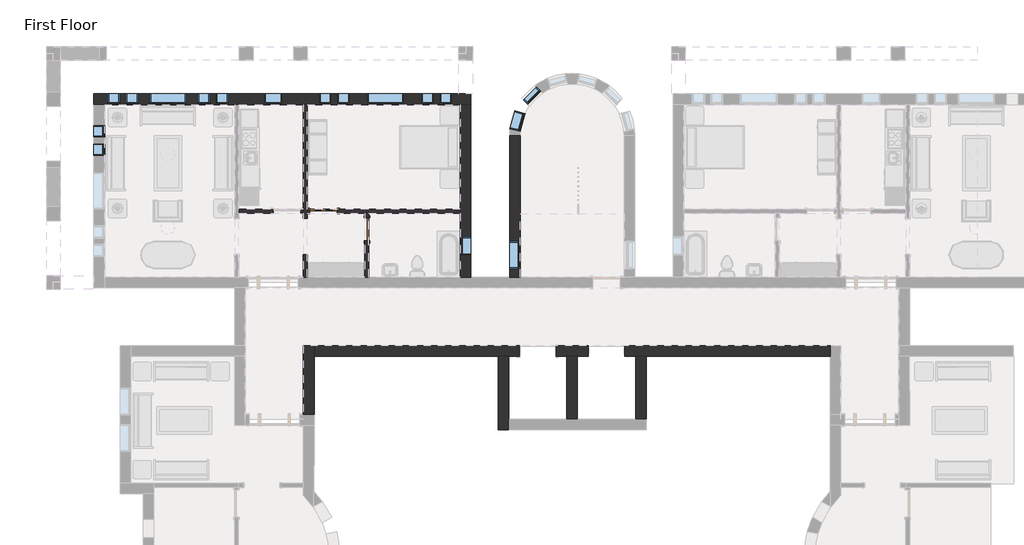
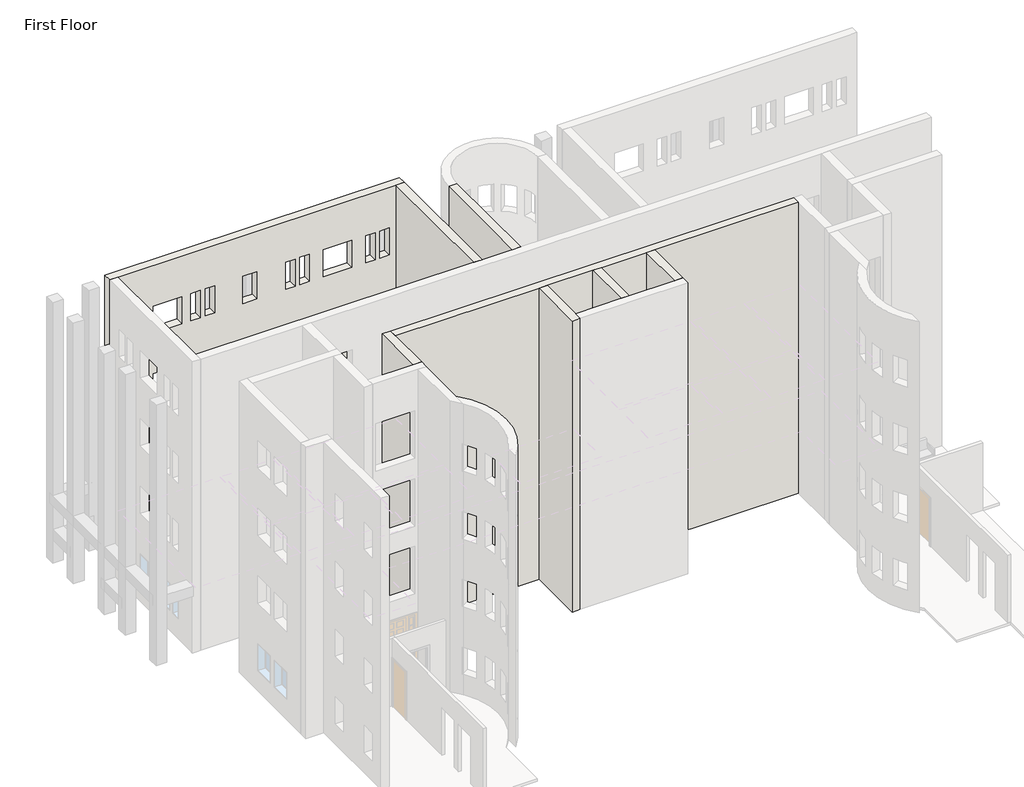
# One storey, part 13 of 21: 17 windows, 12 walls, 2 doors.
"""IFC4 building model written with IfcOpenShell, lengths in millimetres."""

from ifc_helpers import new_model, si_unit, frame, origin, origin_with_axes, place, context, project, spatial, polyline, outline, extrude, faceted_brep, transform, mapped, element, save
from components import door_829da954, door_e36758a9, window_da97879f, window_d61ef850, window_60baf983, window_ed80354a, window_80bd9af0, window_15c49d37, window_d89bf842

model = new_model("IFC4")

# Units and contexts
model_context = context("Model", 3, world=origin())
ifc_project = project(units=[si_unit("LENGTHUNIT", "METRE", prefix="MILLI")], contexts=[model_context])

# Site, building, storey
site = spatial("IfcSite", under=ifc_project)
building = spatial("IfcBuilding", under=site)
storey = spatial("IfcBuildingStorey", under=building, Name="First Floor", Elevation=0.0)

# Doors
placement = place(None, origin())
door_shape = door_829da954(model_context)
element("IfcDoor", 1, ObjectType="Single-Decorative 2 : 36\" x 84\"", at=placement, inside=storey, context=model_context, shape_type="MappedRepresentation", body=[
    mapped(door_shape, transform((-23201.2839563, 6723.5441867, 0.0), x_axis=(-1.0, 0.0, 0.0), y_axis=(0.0, -1.0, 0.0), z_axis=(0.0, 0.0, 1.0))),
])
door_2_shape = door_e36758a9(model_context)
element("IfcDoor", 2, ObjectType="Single-Flush : 30\" x 84\"", at=placement, inside=storey, context=model_context, shape_type="MappedRepresentation", body=[
    mapped(door_2_shape, transform((-21764.5964563, 6113.9441867, 0.0), x_axis=(0.0, 1.0, 0.0), y_axis=(-1.0, 0.0, 0.0), z_axis=(0.0, 0.0, 1.0))),
])

# Walls
element("IfcWall", 3, ObjectType="Exterior - Brick on Mtl. Stud", at=placement, inside=storey, context=model_context, shape_type="Brep", body=[
    faceted_brep([(-17397.3839563, 1888.0191867, 0.0), (-17397.3839563, -550.3808133, 0.0), (-17397.3839563, -550.3808133, 13106.4), (-17397.3839563, 1888.0191867, 13106.4), (-17044.9589563, 1888.0191867, 0.0), (-17044.9589563, 1888.0191867, 13106.4), (-17044.9589563, -197.9558133, 13106.4), (-17044.9589563, -550.3808133, 13106.4), (-17044.9589563, -550.3808133, 0.0), (-17044.9589563, -197.9558133, 0.0)], [[[0, 1, 2, 3]], [[4, 5, 6, 7, 8, 9]], [[1, 0, 4, 9, 8]], [[3, 2, 7, 6, 5]], [[2, 1, 8, 7]], [[0, 3, 5, 4]]]),
])
element("IfcWall", 4, ObjectType="Exterior - Brick on Mtl. Stud", at=placement, inside=storey, context=model_context, shape_type="SweptSolid", body=[
    extrude(outline(polyline([(-12472.9589563, 1888.0191867), (-12472.9589563, -197.9558133), (-12825.3839563, -197.9558133), (-12825.3839563, 1888.0191867), (-12472.9589563, 1888.0191867)])), origin_with_axes(), (0.0, 0.0, 1.0), 13106.4),
])
element("IfcWall", 5, ObjectType="Exterior - Brick on Mtl. Stud", at=placement, inside=storey, context=model_context, shape_type="Brep", body=[
    faceted_brep([(-23521.9589563, 2240.4441867, 0.0), (-16687.7714563, 2240.4441867, 0.0), (-16687.7714563, 1888.0191867, 0.0), (-17044.9589563, 1888.0191867, 0.0), (-17397.3839563, 1888.0191867, 0.0), (-23521.9589563, 1888.0191867, 0.0), (-15468.5714563, 2240.4441867, 0.0), (-14401.7714563, 2240.4441867, 0.0), (-14401.7714563, 1888.0191867, 0.0), (-14758.9589563, 1888.0191867, 0.0), (-15111.3839563, 1888.0191867, 0.0), (-15468.5714563, 1888.0191867, 0.0), (-13182.5714563, 2240.4441867, 0.0), (-6348.3839563, 2240.4441867, 0.0), (-6348.3839563, 1888.0191867, 0.0), (-12472.9589563, 1888.0191867, 0.0), (-12825.3839563, 1888.0191867, 0.0), (-13182.5714563, 1888.0191867, 0.0), (-23521.9589563, 1888.0191867, 13106.4), (-17397.3839563, 1888.0191867, 13106.4), (-17044.9589563, 1888.0191867, 13106.4), (-15111.3839563, 1888.0191867, 13106.4), (-14758.9589563, 1888.0191867, 13106.4), (-12825.3839563, 1888.0191867, 13106.4), (-12472.9589563, 1888.0191867, 13106.4), (-6348.3839563, 1888.0191867, 13106.4), (-6348.3839563, 2240.4441867, 13106.4), (-23521.9589563, 2240.4441867, 13106.4), (-14401.7714563, 1888.0191867, 2133.6), (-13182.5714563, 1888.0191867, 2133.6), (-16687.7714563, 1888.0191867, 2133.6), (-15468.5714563, 1888.0191867, 2133.6), (-13182.5714563, 1888.0191867, 8229.6), (-13182.5714563, 1888.0191867, 6096.0), (-14401.7714563, 1888.0191867, 6096.0), (-14401.7714563, 1888.0191867, 8229.6), (-15468.5714563, 1888.0191867, 8229.6), (-15468.5714563, 1888.0191867, 6096.0), (-16687.7714563, 1888.0191867, 6096.0), (-16687.7714563, 1888.0191867, 8229.6), (-13182.5714563, 1888.0191867, 5181.6), (-13182.5714563, 1888.0191867, 3048.0), (-14401.7714563, 1888.0191867, 3048.0), (-14401.7714563, 1888.0191867, 5181.6), (-15468.5714563, 1888.0191867, 5181.6), (-15468.5714563, 1888.0191867, 3048.0), (-16687.7714563, 1888.0191867, 3048.0), (-16687.7714563, 1888.0191867, 5181.6), (-13182.5714563, 1888.0191867, 11277.6), (-13182.5714563, 1888.0191867, 9144.0), (-14401.7714563, 1888.0191867, 9144.0), (-14401.7714563, 1888.0191867, 11277.6), (-15468.5714563, 1888.0191867, 11277.6), (-15468.5714563, 1888.0191867, 9144.0), (-16687.7714563, 1888.0191867, 9144.0), (-16687.7714563, 1888.0191867, 11277.6), (-14401.7714563, 2240.4441867, 2133.6), (-15468.5714563, 2240.4441867, 2133.6), (-16687.7714563, 2240.4441867, 2133.6), (-13182.5714563, 2240.4441867, 2133.6), (-13182.5714563, 2240.4441867, 8229.6), (-14401.7714563, 2240.4441867, 8229.6), (-14401.7714563, 2240.4441867, 6096.0), (-13182.5714563, 2240.4441867, 6096.0), (-15468.5714563, 2240.4441867, 8229.6), (-16687.7714563, 2240.4441867, 8229.6), (-16687.7714563, 2240.4441867, 6096.0), (-15468.5714563, 2240.4441867, 6096.0), (-13182.5714563, 2240.4441867, 5181.6), (-14401.7714563, 2240.4441867, 5181.6), (-14401.7714563, 2240.4441867, 3048.0), (-13182.5714563, 2240.4441867, 3048.0), (-15468.5714563, 2240.4441867, 5181.6), (-16687.7714563, 2240.4441867, 5181.6), (-16687.7714563, 2240.4441867, 3048.0), (-15468.5714563, 2240.4441867, 3048.0), (-13182.5714563, 2240.4441867, 11277.6), (-14401.7714563, 2240.4441867, 11277.6), (-14401.7714563, 2240.4441867, 9144.0), (-13182.5714563, 2240.4441867, 9144.0), (-15468.5714563, 2240.4441867, 11277.6), (-16687.7714563, 2240.4441867, 11277.6), (-16687.7714563, 2240.4441867, 9144.0), (-15468.5714563, 2240.4441867, 9144.0)], [[[0, 1, 2, 3, 4, 5]], [[6, 7, 8, 9, 10, 11]], [[12, 13, 14, 15, 16, 17]], [[18, 19, 20, 21, 22, 23, 24, 25, 26, 27]], [[11, 10, 9, 8, 28, 29, 17, 16, 15, 14, 25, 24, 23, 22, 21, 20, 19, 18, 5, 4, 3, 2, 30, 31], [32, 33, 34, 35], [36, 37, 38, 39], [40, 41, 42, 43], [44, 45, 46, 47], [48, 49, 50, 51], [52, 53, 54, 55]], [[56, 7, 6, 57, 58, 1, 0, 27, 26, 13, 12, 59], [60, 61, 62, 63], [64, 65, 66, 67], [68, 69, 70, 71], [72, 73, 74, 75], [76, 77, 78, 79], [80, 81, 82, 83]], [[25, 14, 13, 26]], [[5, 18, 27, 0]], [[11, 31, 57, 6]], [[30, 2, 1, 58]], [[31, 30, 58, 57]], [[17, 29, 59, 12]], [[28, 8, 7, 56]], [[29, 28, 56, 59]], [[33, 32, 60, 63]], [[34, 33, 63, 62]], [[35, 34, 62, 61]], [[32, 35, 61, 60]], [[37, 36, 64, 67]], [[38, 37, 67, 66]], [[39, 38, 66, 65]], [[36, 39, 65, 64]], [[41, 40, 68, 71]], [[42, 41, 71, 70]], [[43, 42, 70, 69]], [[40, 43, 69, 68]], [[45, 44, 72, 75]], [[46, 45, 75, 74]], [[47, 46, 74, 73]], [[44, 47, 73, 72]], [[49, 48, 76, 79]], [[50, 49, 79, 78]], [[51, 50, 78, 77]], [[48, 51, 77, 76]], [[53, 52, 80, 83]], [[54, 53, 83, 82]], [[55, 54, 82, 81]], [[52, 55, 81, 80]]]),
])
element("IfcWall", 6, ObjectType="Exterior - Brick on Mtl. Stud", at=placement, inside=storey, context=model_context, shape_type="SweptSolid", body=[
    extrude(outline(polyline([(4526.4441867, 0.0), (4526.4441867, 13106.4), (9227.0316867, 13106.4), (9227.0316867, 0.0), (4526.4441867, 0.0)]), holes=[polyline([(4807.4316867, 8229.6), (4807.4316867, 7010.4), (5721.8316867, 7010.4), (5721.8316867, 8229.6), (4807.4316867, 8229.6)]), polyline([(4807.4316867, 5181.6), (4807.4316867, 3962.4), (5721.8316867, 3962.4), (5721.8316867, 5181.6), (4807.4316867, 5181.6)]), polyline([(4807.4316867, 11277.6), (4807.4316867, 10058.4), (5721.8316867, 10058.4), (5721.8316867, 11277.6), (4807.4316867, 11277.6)]), polyline([(4807.4316867, 2133.6), (4807.4316867, 914.4), (5721.8316867, 914.4), (5721.8316867, 2133.6), (4807.4316867, 2133.6)])]), frame((-17016.3839563, 0.0, 0.0), z_axis=(1.0, 0.0, 0.0), x_axis=(0.0, 1.0, 0.0)), (0.0, 0.0, 1.0), 352.425),
])
element("IfcWall", 7, ObjectType="Exterior - Brick on Mtl. Stud", at=placement, inside=storey, context=model_context, shape_type="SweptSolid", body=[
    extrude(outline(polyline([(-14758.9589563, 1888.0191867), (-14758.9589563, -197.9558133), (-15111.3839563, -197.9558133), (-15111.3839563, 1888.0191867), (-14758.9589563, 1888.0191867)])), origin_with_axes(), (0.0, 0.0, 1.0), 13106.4),
])
element("IfcWall", 8, ObjectType="Exterior - Brick on Mtl. Stud", at=placement, inside=storey, context=model_context, shape_type="Brep", body=[
    faceted_brep([(-23874.3839563, 2240.4441867, 0.0), (-23874.3839563, -48.0814907, 0.0), (-23874.3839563, -48.0814907, 13106.4), (-23874.3839563, 2240.4441867, 13106.4), (-23521.9589563, 2240.4441867, 0.0), (-23521.9589563, 2240.4441867, 13106.4), (-23521.9589563, 1888.0191867, 13106.4), (-23521.9589563, -48.3489373, 13106.4), (-23521.9589563, -48.3489373, 0.0), (-23521.9589563, 1888.0191867, 0.0)], [[[0, 1, 2, 3]], [[4, 5, 6, 7, 8, 9]], [[1, 0, 4, 9, 8]], [[3, 2, 7, 6, 5]], [[0, 3, 5, 4]], [[2, 1, 8, 7]]]),
])
element("IfcWall", 9, ObjectType="Exterior - Brick on Mtl. Stud", at=placement, inside=storey, context=model_context, shape_type="Brep", body=[
    faceted_brep([(-18300.6714563, 10622.4441867, 13106.4), (-30845.0964563, 10622.4441867, 13106.4), (-30845.0964563, 10270.0191867, 13106.4), (-30492.6714563, 10270.0191867, 13106.4), (-18653.0964563, 10270.0191867, 13106.4), (-18300.6714563, 10270.0191867, 13106.4), (-18300.6714563, 10622.4441867, 0.0), (-18487.9964563, 10622.4441867, 0.0), (-30657.7714563, 10622.4441867, 0.0), (-30845.0964563, 10622.4441867, 0.0), (-29779.8839563, 10622.4441867, 8229.6), (-29779.8839563, 10622.4441867, 7010.4), (-29373.4839563, 10622.4441867, 7010.4), (-29373.4839563, 10622.4441867, 8229.6), (-30389.4839563, 10622.4441867, 8229.6), (-30389.4839563, 10622.4441867, 7010.4), (-29983.0839563, 10622.4441867, 7010.4), (-29983.0839563, 10622.4441867, 8229.6), (-26985.8839563, 10622.4441867, 8229.6), (-27392.2839563, 10622.4441867, 8229.6), (-27392.2839563, 10622.4441867, 7010.4), (-26985.8839563, 10622.4441867, 7010.4), (-26376.2839563, 10622.4441867, 8229.6), (-26782.6839563, 10622.4441867, 8229.6), (-26782.6839563, 10622.4441867, 7010.4), (-26376.2839563, 10622.4441867, 7010.4), (-22744.0839563, 10622.4441867, 8229.6), (-22744.0839563, 10622.4441867, 7010.4), (-22337.6839563, 10622.4441867, 7010.4), (-22337.6839563, 10622.4441867, 8229.6), (-23353.6839563, 10622.4441867, 8229.6), (-23353.6839563, 10622.4441867, 7010.4), (-22947.2839563, 10622.4441867, 7010.4), (-22947.2839563, 10622.4441867, 8229.6), (-19543.6839563, 10622.4441867, 8229.6), (-19950.0839563, 10622.4441867, 8229.6), (-19950.0839563, 10622.4441867, 7010.4), (-19543.6839563, 10622.4441867, 7010.4), (-18934.0839563, 10622.4441867, 8229.6), (-19340.4839563, 10622.4441867, 8229.6), (-19340.4839563, 10622.4441867, 7010.4), (-18934.0839563, 10622.4441867, 7010.4), (-27773.2839563, 10622.4441867, 8229.6), (-28992.4839563, 10622.4441867, 8229.6), (-28992.4839563, 10622.4441867, 7010.4), (-27773.2839563, 10622.4441867, 7010.4), (-20534.2839563, 10622.4441867, 8229.6), (-21753.4839563, 10622.4441867, 8229.6), (-21753.4839563, 10622.4441867, 7010.4), (-20534.2839563, 10622.4441867, 7010.4), (-24572.8839563, 10622.4441867, 8229.6), (-25182.4839563, 10622.4441867, 8229.6), (-25182.4839563, 10622.4441867, 7010.4), (-24572.8839563, 10622.4441867, 7010.4), (-29779.8839563, 10622.4441867, 5181.6), (-29779.8839563, 10622.4441867, 3962.4), (-29373.4839563, 10622.4441867, 3962.4), (-29373.4839563, 10622.4441867, 5181.6), (-30389.4839563, 10622.4441867, 5181.6), (-30389.4839563, 10622.4441867, 3962.4), (-29983.0839563, 10622.4441867, 3962.4), (-29983.0839563, 10622.4441867, 5181.6), (-26985.8839563, 10622.4441867, 5181.6), (-27392.2839563, 10622.4441867, 5181.6), (-27392.2839563, 10622.4441867, 3962.4), (-26985.8839563, 10622.4441867, 3962.4), (-26376.2839563, 10622.4441867, 5181.6), (-26782.6839563, 10622.4441867, 5181.6), (-26782.6839563, 10622.4441867, 3962.4), (-26376.2839563, 10622.4441867, 3962.4), (-22744.0839563, 10622.4441867, 5181.6), (-22744.0839563, 10622.4441867, 3962.4), (-22337.6839563, 10622.4441867, 3962.4), (-22337.6839563, 10622.4441867, 5181.6), (-23353.6839563, 10622.4441867, 5181.6), (-23353.6839563, 10622.4441867, 3962.4), (-22947.2839563, 10622.4441867, 3962.4), (-22947.2839563, 10622.4441867, 5181.6), (-19543.6839563, 10622.4441867, 5181.6), (-19950.0839563, 10622.4441867, 5181.6), (-19950.0839563, 10622.4441867, 3962.4), (-19543.6839563, 10622.4441867, 3962.4), (-18934.0839563, 10622.4441867, 5181.6), (-19340.4839563, 10622.4441867, 5181.6), (-19340.4839563, 10622.4441867, 3962.4), (-18934.0839563, 10622.4441867, 3962.4), (-27773.2839563, 10622.4441867, 5181.6), (-28992.4839563, 10622.4441867, 5181.6), (-28992.4839563, 10622.4441867, 3962.4), (-27773.2839563, 10622.4441867, 3962.4), (-20534.2839563, 10622.4441867, 5181.6), (-21753.4839563, 10622.4441867, 5181.6), (-21753.4839563, 10622.4441867, 3962.4), (-20534.2839563, 10622.4441867, 3962.4), (-24572.8839563, 10622.4441867, 5181.6), (-25182.4839563, 10622.4441867, 5181.6), (-25182.4839563, 10622.4441867, 3962.4), (-24572.8839563, 10622.4441867, 3962.4), (-29779.8839563, 10622.4441867, 11277.6), (-29779.8839563, 10622.4441867, 10058.4), (-29373.4839563, 10622.4441867, 10058.4), (-29373.4839563, 10622.4441867, 11277.6), (-30389.4839563, 10622.4441867, 11277.6), (-30389.4839563, 10622.4441867, 10058.4), (-29983.0839563, 10622.4441867, 10058.4), (-29983.0839563, 10622.4441867, 11277.6), (-26985.8839563, 10622.4441867, 11277.6), (-27392.2839563, 10622.4441867, 11277.6), (-27392.2839563, 10622.4441867, 10058.4), (-26985.8839563, 10622.4441867, 10058.4), (-26376.2839563, 10622.4441867, 11277.6), (-26782.6839563, 10622.4441867, 11277.6), (-26782.6839563, 10622.4441867, 10058.4), (-26376.2839563, 10622.4441867, 10058.4), (-22744.0839563, 10622.4441867, 11277.6), (-22744.0839563, 10622.4441867, 10058.4), (-22337.6839563, 10622.4441867, 10058.4), (-22337.6839563, 10622.4441867, 11277.6), (-23353.6839563, 10622.4441867, 11277.6), (-23353.6839563, 10622.4441867, 10058.4), (-22947.2839563, 10622.4441867, 10058.4), (-22947.2839563, 10622.4441867, 11277.6), (-19543.6839563, 10622.4441867, 11277.6), (-19950.0839563, 10622.4441867, 11277.6), (-19950.0839563, 10622.4441867, 10058.4), (-19543.6839563, 10622.4441867, 10058.4), (-18934.0839563, 10622.4441867, 11277.6), (-19340.4839563, 10622.4441867, 11277.6), (-19340.4839563, 10622.4441867, 10058.4), (-18934.0839563, 10622.4441867, 10058.4), (-27773.2839563, 10622.4441867, 11277.6), (-28992.4839563, 10622.4441867, 11277.6), (-28992.4839563, 10622.4441867, 10058.4), (-27773.2839563, 10622.4441867, 10058.4), (-20534.2839563, 10622.4441867, 11277.6), (-21753.4839563, 10622.4441867, 11277.6), (-21753.4839563, 10622.4441867, 10058.4), (-20534.2839563, 10622.4441867, 10058.4), (-24572.8839563, 10622.4441867, 11277.6), (-25182.4839563, 10622.4441867, 11277.6), (-25182.4839563, 10622.4441867, 10058.4), (-24572.8839563, 10622.4441867, 10058.4), (-29779.8839563, 10622.4441867, 2133.6), (-29779.8839563, 10622.4441867, 914.4), (-29373.4839563, 10622.4441867, 914.4), (-29373.4839563, 10622.4441867, 2133.6), (-30389.4839563, 10622.4441867, 2133.6), (-30389.4839563, 10622.4441867, 914.4), (-29983.0839563, 10622.4441867, 914.4), (-29983.0839563, 10622.4441867, 2133.6), (-26985.8839563, 10622.4441867, 2133.6), (-27392.2839563, 10622.4441867, 2133.6), (-27392.2839563, 10622.4441867, 914.4), (-26985.8839563, 10622.4441867, 914.4), (-26376.2839563, 10622.4441867, 2133.6), (-26782.6839563, 10622.4441867, 2133.6), (-26782.6839563, 10622.4441867, 914.4), (-26376.2839563, 10622.4441867, 914.4), (-22744.0839563, 10622.4441867, 2133.6), (-22744.0839563, 10622.4441867, 914.4), (-22337.6839563, 10622.4441867, 914.4), (-22337.6839563, 10622.4441867, 2133.6), (-23353.6839563, 10622.4441867, 2133.6), (-23353.6839563, 10622.4441867, 914.4), (-22947.2839563, 10622.4441867, 914.4), (-22947.2839563, 10622.4441867, 2133.6), (-19543.6839563, 10622.4441867, 2133.6), (-19950.0839563, 10622.4441867, 2133.6), (-19950.0839563, 10622.4441867, 914.4), (-19543.6839563, 10622.4441867, 914.4), (-18934.0839563, 10622.4441867, 2133.6), (-19340.4839563, 10622.4441867, 2133.6), (-19340.4839563, 10622.4441867, 914.4), (-18934.0839563, 10622.4441867, 914.4), (-27773.2839563, 10622.4441867, 2133.6), (-28992.4839563, 10622.4441867, 2133.6), (-28992.4839563, 10622.4441867, 914.4), (-27773.2839563, 10622.4441867, 914.4), (-20534.2839563, 10622.4441867, 2133.6), (-21753.4839563, 10622.4441867, 2133.6), (-21753.4839563, 10622.4441867, 914.4), (-20534.2839563, 10622.4441867, 914.4), (-24572.8839563, 10622.4441867, 2133.6), (-25182.4839563, 10622.4441867, 2133.6), (-25182.4839563, 10622.4441867, 914.4), (-24572.8839563, 10622.4441867, 914.4), (-18300.6714563, 10270.0191867, 0.0), (-30845.0964563, 10270.0191867, 0.0), (-30657.7714563, 10270.0191867, 0.0), (-30492.6714563, 10270.0191867, 0.0), (-26160.3839563, 10270.0191867, 0.0), (-26033.3839563, 10270.0191867, 0.0), (-23874.3839563, 10270.0191867, 0.0), (-23747.3839563, 10270.0191867, 0.0), (-18653.0964563, 10270.0191867, 0.0), (-18487.9964563, 10270.0191867, 0.0), (-29779.8839563, 10270.0191867, 8229.6), (-29373.4839563, 10270.0191867, 8229.6), (-29373.4839563, 10270.0191867, 7010.4), (-29779.8839563, 10270.0191867, 7010.4), (-30389.4839563, 10270.0191867, 8229.6), (-29983.0839563, 10270.0191867, 8229.6), (-29983.0839563, 10270.0191867, 7010.4), (-30389.4839563, 10270.0191867, 7010.4), (-26985.8839563, 10270.0191867, 8229.6), (-26985.8839563, 10270.0191867, 7010.4), (-27392.2839563, 10270.0191867, 7010.4), (-27392.2839563, 10270.0191867, 8229.6), (-26376.2839563, 10270.0191867, 8229.6), (-26376.2839563, 10270.0191867, 7010.4), (-26782.6839563, 10270.0191867, 7010.4), (-26782.6839563, 10270.0191867, 8229.6), (-22744.0839563, 10270.0191867, 8229.6), (-22337.6839563, 10270.0191867, 8229.6), (-22337.6839563, 10270.0191867, 7010.4), (-22744.0839563, 10270.0191867, 7010.4), (-23353.6839563, 10270.0191867, 8229.6), (-22947.2839563, 10270.0191867, 8229.6), (-22947.2839563, 10270.0191867, 7010.4), (-23353.6839563, 10270.0191867, 7010.4), (-19543.6839563, 10270.0191867, 8229.6), (-19543.6839563, 10270.0191867, 7010.4), (-19950.0839563, 10270.0191867, 7010.4), (-19950.0839563, 10270.0191867, 8229.6), (-18934.0839563, 10270.0191867, 8229.6), (-18934.0839563, 10270.0191867, 7010.4), (-19340.4839563, 10270.0191867, 7010.4), (-19340.4839563, 10270.0191867, 8229.6), (-27773.2839563, 10270.0191867, 8229.6), (-27773.2839563, 10270.0191867, 7010.4), (-28992.4839563, 10270.0191867, 7010.4), (-28992.4839563, 10270.0191867, 8229.6), (-20534.2839563, 10270.0191867, 8229.6), (-20534.2839563, 10270.0191867, 7010.4), (-21753.4839563, 10270.0191867, 7010.4), (-21753.4839563, 10270.0191867, 8229.6), (-24572.8839563, 10270.0191867, 8229.6), (-24572.8839563, 10270.0191867, 7010.4), (-25182.4839563, 10270.0191867, 7010.4), (-25182.4839563, 10270.0191867, 8229.6), (-29779.8839563, 10270.0191867, 5181.6), (-29373.4839563, 10270.0191867, 5181.6), (-29373.4839563, 10270.0191867, 3962.4), (-29779.8839563, 10270.0191867, 3962.4), (-30389.4839563, 10270.0191867, 5181.6), (-29983.0839563, 10270.0191867, 5181.6), (-29983.0839563, 10270.0191867, 3962.4), (-30389.4839563, 10270.0191867, 3962.4), (-26985.8839563, 10270.0191867, 5181.6), (-26985.8839563, 10270.0191867, 3962.4), (-27392.2839563, 10270.0191867, 3962.4), (-27392.2839563, 10270.0191867, 5181.6), (-26376.2839563, 10270.0191867, 5181.6), (-26376.2839563, 10270.0191867, 3962.4), (-26782.6839563, 10270.0191867, 3962.4), (-26782.6839563, 10270.0191867, 5181.6), (-22744.0839563, 10270.0191867, 5181.6), (-22337.6839563, 10270.0191867, 5181.6), (-22337.6839563, 10270.0191867, 3962.4), (-22744.0839563, 10270.0191867, 3962.4), (-23353.6839563, 10270.0191867, 5181.6), (-22947.2839563, 10270.0191867, 5181.6), (-22947.2839563, 10270.0191867, 3962.4), (-23353.6839563, 10270.0191867, 3962.4), (-19543.6839563, 10270.0191867, 5181.6), (-19543.6839563, 10270.0191867, 3962.4), (-19950.0839563, 10270.0191867, 3962.4), (-19950.0839563, 10270.0191867, 5181.6), (-18934.0839563, 10270.0191867, 5181.6), (-18934.0839563, 10270.0191867, 3962.4), (-19340.4839563, 10270.0191867, 3962.4), (-19340.4839563, 10270.0191867, 5181.6), (-27773.2839563, 10270.0191867, 5181.6), (-27773.2839563, 10270.0191867, 3962.4), (-28992.4839563, 10270.0191867, 3962.4), (-28992.4839563, 10270.0191867, 5181.6), (-20534.2839563, 10270.0191867, 5181.6), (-20534.2839563, 10270.0191867, 3962.4), (-21753.4839563, 10270.0191867, 3962.4), (-21753.4839563, 10270.0191867, 5181.6), (-24572.8839563, 10270.0191867, 5181.6), (-24572.8839563, 10270.0191867, 3962.4), (-25182.4839563, 10270.0191867, 3962.4), (-25182.4839563, 10270.0191867, 5181.6), (-29779.8839563, 10270.0191867, 11277.6), (-29373.4839563, 10270.0191867, 11277.6), (-29373.4839563, 10270.0191867, 10058.4), (-29779.8839563, 10270.0191867, 10058.4), (-30389.4839563, 10270.0191867, 11277.6), (-29983.0839563, 10270.0191867, 11277.6), (-29983.0839563, 10270.0191867, 10058.4), (-30389.4839563, 10270.0191867, 10058.4), (-26985.8839563, 10270.0191867, 11277.6), (-26985.8839563, 10270.0191867, 10058.4), (-27392.2839563, 10270.0191867, 10058.4), (-27392.2839563, 10270.0191867, 11277.6), (-26376.2839563, 10270.0191867, 11277.6), (-26376.2839563, 10270.0191867, 10058.4), (-26782.6839563, 10270.0191867, 10058.4), (-26782.6839563, 10270.0191867, 11277.6), (-22744.0839563, 10270.0191867, 11277.6), (-22337.6839563, 10270.0191867, 11277.6), (-22337.6839563, 10270.0191867, 10058.4), (-22744.0839563, 10270.0191867, 10058.4), (-23353.6839563, 10270.0191867, 11277.6), (-22947.2839563, 10270.0191867, 11277.6), (-22947.2839563, 10270.0191867, 10058.4), (-23353.6839563, 10270.0191867, 10058.4), (-19543.6839563, 10270.0191867, 11277.6), (-19543.6839563, 10270.0191867, 10058.4), (-19950.0839563, 10270.0191867, 10058.4), (-19950.0839563, 10270.0191867, 11277.6), (-18934.0839563, 10270.0191867, 11277.6), (-18934.0839563, 10270.0191867, 10058.4), (-19340.4839563, 10270.0191867, 10058.4), (-19340.4839563, 10270.0191867, 11277.6), (-27773.2839563, 10270.0191867, 11277.6), (-27773.2839563, 10270.0191867, 10058.4), (-28992.4839563, 10270.0191867, 10058.4), (-28992.4839563, 10270.0191867, 11277.6), (-20534.2839563, 10270.0191867, 11277.6), (-20534.2839563, 10270.0191867, 10058.4), (-21753.4839563, 10270.0191867, 10058.4), (-21753.4839563, 10270.0191867, 11277.6), (-24572.8839563, 10270.0191867, 11277.6), (-24572.8839563, 10270.0191867, 10058.4), (-25182.4839563, 10270.0191867, 10058.4), (-25182.4839563, 10270.0191867, 11277.6), (-29779.8839563, 10270.0191867, 2133.6), (-29373.4839563, 10270.0191867, 2133.6), (-29373.4839563, 10270.0191867, 914.4), (-29779.8839563, 10270.0191867, 914.4), (-30389.4839563, 10270.0191867, 2133.6), (-29983.0839563, 10270.0191867, 2133.6), (-29983.0839563, 10270.0191867, 914.4), (-30389.4839563, 10270.0191867, 914.4), (-26985.8839563, 10270.0191867, 2133.6), (-26985.8839563, 10270.0191867, 914.4), (-27392.2839563, 10270.0191867, 914.4), (-27392.2839563, 10270.0191867, 2133.6), (-26376.2839563, 10270.0191867, 2133.6), (-26376.2839563, 10270.0191867, 914.4), (-26782.6839563, 10270.0191867, 914.4), (-26782.6839563, 10270.0191867, 2133.6), (-22744.0839563, 10270.0191867, 2133.6), (-22337.6839563, 10270.0191867, 2133.6), (-22337.6839563, 10270.0191867, 914.4), (-22744.0839563, 10270.0191867, 914.4), (-23353.6839563, 10270.0191867, 2133.6), (-22947.2839563, 10270.0191867, 2133.6), (-22947.2839563, 10270.0191867, 914.4), (-23353.6839563, 10270.0191867, 914.4), (-19543.6839563, 10270.0191867, 2133.6), (-19543.6839563, 10270.0191867, 914.4), (-19950.0839563, 10270.0191867, 914.4), (-19950.0839563, 10270.0191867, 2133.6), (-18934.0839563, 10270.0191867, 2133.6), (-18934.0839563, 10270.0191867, 914.4), (-19340.4839563, 10270.0191867, 914.4), (-19340.4839563, 10270.0191867, 2133.6), (-27773.2839563, 10270.0191867, 2133.6), (-27773.2839563, 10270.0191867, 914.4), (-28992.4839563, 10270.0191867, 914.4), (-28992.4839563, 10270.0191867, 2133.6), (-20534.2839563, 10270.0191867, 2133.6), (-20534.2839563, 10270.0191867, 914.4), (-21753.4839563, 10270.0191867, 914.4), (-21753.4839563, 10270.0191867, 2133.6), (-24572.8839563, 10270.0191867, 2133.6), (-24572.8839563, 10270.0191867, 914.4), (-25182.4839563, 10270.0191867, 914.4), (-25182.4839563, 10270.0191867, 2133.6), (-30845.0964563, 10435.1191867, 0.0), (-18300.6714563, 10435.1191867, 0.0), (-30657.7714563, 10435.1191867, 0.0), (-18487.9964563, 10435.1191867, 0.0)], [[[0, 1, 2, 3, 4, 5]], [[6, 7, 8, 9, 1, 0], [10, 11, 12, 13], [14, 15, 16, 17], [18, 19, 20, 21], [22, 23, 24, 25], [26, 27, 28, 29], [30, 31, 32, 33], [34, 35, 36, 37], [38, 39, 40, 41], [42, 43, 44, 45], [46, 47, 48, 49], [50, 51, 52, 53], [54, 55, 56, 57], [58, 59, 60, 61], [62, 63, 64, 65], [66, 67, 68, 69], [70, 71, 72, 73], [74, 75, 76, 77], [78, 79, 80, 81], [82, 83, 84, 85], [86, 87, 88, 89], [90, 91, 92, 93], [94, 95, 96, 97], [98, 99, 100, 101], [102, 103, 104, 105], [106, 107, 108, 109], [110, 111, 112, 113], [114, 115, 116, 117], [118, 119, 120, 121], [122, 123, 124, 125], [126, 127, 128, 129], [130, 131, 132, 133], [134, 135, 136, 137], [138, 139, 140, 141], [142, 143, 144, 145], [146, 147, 148, 149], [150, 151, 152, 153], [154, 155, 156, 157], [158, 159, 160, 161], [162, 163, 164, 165], [166, 167, 168, 169], [170, 171, 172, 173], [174, 175, 176, 177], [178, 179, 180, 181], [182, 183, 184, 185]], [[186, 5, 4, 3, 2, 187, 188, 189, 190, 191, 192, 193, 194, 195], [196, 197, 198, 199], [200, 201, 202, 203], [204, 205, 206, 207], [208, 209, 210, 211], [212, 213, 214, 215], [216, 217, 218, 219], [220, 221, 222, 223], [224, 225, 226, 227], [228, 229, 230, 231], [232, 233, 234, 235], [236, 237, 238, 239], [240, 241, 242, 243], [244, 245, 246, 247], [248, 249, 250, 251], [252, 253, 254, 255], [256, 257, 258, 259], [260, 261, 262, 263], [264, 265, 266, 267], [268, 269, 270, 271], [272, 273, 274, 275], [276, 277, 278, 279], [280, 281, 282, 283], [284, 285, 286, 287], [288, 289, 290, 291], [292, 293, 294, 295], [296, 297, 298, 299], [300, 301, 302, 303], [304, 305, 306, 307], [308, 309, 310, 311], [312, 313, 314, 315], [316, 317, 318, 319], [320, 321, 322, 323], [324, 325, 326, 327], [328, 329, 330, 331], [332, 333, 334, 335], [336, 337, 338, 339], [340, 341, 342, 343], [344, 345, 346, 347], [348, 349, 350, 351], [352, 353, 354, 355], [356, 357, 358, 359], [360, 361, 362, 363], [364, 365, 366, 367], [368, 369, 370, 371]], [[1, 9, 372, 187, 2]], [[6, 0, 5, 186, 373]], [[374, 188, 187, 372]], [[9, 8, 374, 372]], [[8, 7, 375, 374]], [[373, 186, 195, 375]], [[7, 6, 373, 375]], [[375, 195, 194, 193, 192, 191, 190, 189, 188, 374]], [[11, 10, 196, 199]], [[12, 11, 199, 198]], [[13, 12, 198, 197]], [[10, 13, 197, 196]], [[15, 14, 200, 203]], [[16, 15, 203, 202]], [[17, 16, 202, 201]], [[14, 17, 201, 200]], [[205, 204, 18, 21]], [[206, 205, 21, 20]], [[207, 206, 20, 19]], [[204, 207, 19, 18]], [[209, 208, 22, 25]], [[210, 209, 25, 24]], [[211, 210, 24, 23]], [[208, 211, 23, 22]], [[27, 26, 212, 215]], [[28, 27, 215, 214]], [[29, 28, 214, 213]], [[26, 29, 213, 212]], [[31, 30, 216, 219]], [[32, 31, 219, 218]], [[33, 32, 218, 217]], [[30, 33, 217, 216]], [[221, 220, 34, 37]], [[222, 221, 37, 36]], [[223, 222, 36, 35]], [[220, 223, 35, 34]], [[225, 224, 38, 41]], [[226, 225, 41, 40]], [[227, 226, 40, 39]], [[224, 227, 39, 38]], [[229, 228, 42, 45]], [[230, 229, 45, 44]], [[231, 230, 44, 43]], [[228, 231, 43, 42]], [[233, 232, 46, 49]], [[234, 233, 49, 48]], [[235, 234, 48, 47]], [[232, 235, 47, 46]], [[237, 236, 50, 53]], [[238, 237, 53, 52]], [[239, 238, 52, 51]], [[236, 239, 51, 50]], [[55, 54, 240, 243]], [[56, 55, 243, 242]], [[57, 56, 242, 241]], [[54, 57, 241, 240]], [[59, 58, 244, 247]], [[60, 59, 247, 246]], [[61, 60, 246, 245]], [[58, 61, 245, 244]], [[249, 248, 62, 65]], [[250, 249, 65, 64]], [[251, 250, 64, 63]], [[248, 251, 63, 62]], [[253, 252, 66, 69]], [[254, 253, 69, 68]], [[255, 254, 68, 67]], [[252, 255, 67, 66]], [[71, 70, 256, 259]], [[72, 71, 259, 258]], [[73, 72, 258, 257]], [[70, 73, 257, 256]], [[75, 74, 260, 263]], [[76, 75, 263, 262]], [[77, 76, 262, 261]], [[74, 77, 261, 260]], [[265, 264, 78, 81]], [[266, 265, 81, 80]], [[267, 266, 80, 79]], [[264, 267, 79, 78]], [[269, 268, 82, 85]], [[270, 269, 85, 84]], [[271, 270, 84, 83]], [[268, 271, 83, 82]], [[273, 272, 86, 89]], [[274, 273, 89, 88]], [[275, 274, 88, 87]], [[272, 275, 87, 86]], [[277, 276, 90, 93]], [[278, 277, 93, 92]], [[279, 278, 92, 91]], [[276, 279, 91, 90]], [[281, 280, 94, 97]], [[282, 281, 97, 96]], [[283, 282, 96, 95]], [[280, 283, 95, 94]], [[99, 98, 284, 287]], [[100, 99, 287, 286]], [[101, 100, 286, 285]], [[98, 101, 285, 284]], [[103, 102, 288, 291]], [[104, 103, 291, 290]], [[105, 104, 290, 289]], [[102, 105, 289, 288]], [[293, 292, 106, 109]], [[294, 293, 109, 108]], [[295, 294, 108, 107]], [[292, 295, 107, 106]], [[297, 296, 110, 113]], [[298, 297, 113, 112]], [[299, 298, 112, 111]], [[296, 299, 111, 110]], [[115, 114, 300, 303]], [[116, 115, 303, 302]], [[117, 116, 302, 301]], [[114, 117, 301, 300]], [[119, 118, 304, 307]], [[120, 119, 307, 306]], [[121, 120, 306, 305]], [[118, 121, 305, 304]], [[309, 308, 122, 125]], [[310, 309, 125, 124]], [[311, 310, 124, 123]], [[308, 311, 123, 122]], [[313, 312, 126, 129]], [[314, 313, 129, 128]], [[315, 314, 128, 127]], [[312, 315, 127, 126]], [[317, 316, 130, 133]], [[318, 317, 133, 132]], [[319, 318, 132, 131]], [[316, 319, 131, 130]], [[321, 320, 134, 137]], [[322, 321, 137, 136]], [[323, 322, 136, 135]], [[320, 323, 135, 134]], [[325, 324, 138, 141]], [[326, 325, 141, 140]], [[327, 326, 140, 139]], [[324, 327, 139, 138]], [[143, 142, 328, 331]], [[144, 143, 331, 330]], [[145, 144, 330, 329]], [[142, 145, 329, 328]], [[147, 146, 332, 335]], [[148, 147, 335, 334]], [[149, 148, 334, 333]], [[146, 149, 333, 332]], [[337, 336, 150, 153]], [[338, 337, 153, 152]], [[339, 338, 152, 151]], [[336, 339, 151, 150]], [[341, 340, 154, 157]], [[342, 341, 157, 156]], [[343, 342, 156, 155]], [[340, 343, 155, 154]], [[159, 158, 344, 347]], [[160, 159, 347, 346]], [[161, 160, 346, 345]], [[158, 161, 345, 344]], [[163, 162, 348, 351]], [[164, 163, 351, 350]], [[165, 164, 350, 349]], [[162, 165, 349, 348]], [[353, 352, 166, 169]], [[354, 353, 169, 168]], [[355, 354, 168, 167]], [[352, 355, 167, 166]], [[357, 356, 170, 173]], [[358, 357, 173, 172]], [[359, 358, 172, 171]], [[356, 359, 171, 170]], [[361, 360, 174, 177]], [[362, 361, 177, 176]], [[363, 362, 176, 175]], [[360, 363, 175, 174]], [[365, 364, 178, 181]], [[366, 365, 181, 180]], [[367, 366, 180, 179]], [[364, 367, 179, 178]], [[369, 368, 182, 185]], [[370, 369, 185, 184]], [[371, 370, 184, 183]], [[368, 371, 183, 182]]]),
])
element("IfcWall", 10, ObjectType="Exterior - Brick on Mtl. Stud", at=placement, inside=storey, context=model_context, shape_type="Brep", body=[
    faceted_brep([(-18300.6714563, 4526.4441867, 13106.4), (-18300.6714563, 10270.0191867, 13106.4), (-18653.0964563, 10270.0191867, 13106.4), (-18653.0964563, 4526.4441867, 13106.4), (-18300.6714563, 4526.4441867, 0.0), (-18300.6714563, 10270.0191867, 0.0), (-18300.6714563, 5264.6316867, 8229.6), (-18300.6714563, 5874.2316867, 8229.6), (-18300.6714563, 5874.2316867, 7010.4), (-18300.6714563, 5264.6316867, 7010.4), (-18300.6714563, 5264.6316867, 5181.6), (-18300.6714563, 5874.2316867, 5181.6), (-18300.6714563, 5874.2316867, 3962.4), (-18300.6714563, 5264.6316867, 3962.4), (-18300.6714563, 5264.6316867, 11277.6), (-18300.6714563, 5874.2316867, 11277.6), (-18300.6714563, 5874.2316867, 10058.4), (-18300.6714563, 5264.6316867, 10058.4), (-18300.6714563, 5264.6316867, 2133.6), (-18300.6714563, 5874.2316867, 2133.6), (-18300.6714563, 5874.2316867, 914.4), (-18300.6714563, 5264.6316867, 914.4), (-18653.0964563, 4526.4441867, 0.0), (-18653.0964563, 10270.0191867, 0.0), (-18653.0964563, 6787.0441867, 0.0), (-18653.0964563, 6660.0441867, 0.0), (-18653.0964563, 5264.6316867, 8229.6), (-18653.0964563, 5264.6316867, 7010.4), (-18653.0964563, 5874.2316867, 7010.4), (-18653.0964563, 5874.2316867, 8229.6), (-18653.0964563, 5264.6316867, 5181.6), (-18653.0964563, 5264.6316867, 3962.4), (-18653.0964563, 5874.2316867, 3962.4), (-18653.0964563, 5874.2316867, 5181.6), (-18653.0964563, 5264.6316867, 11277.6), (-18653.0964563, 5264.6316867, 10058.4), (-18653.0964563, 5874.2316867, 10058.4), (-18653.0964563, 5874.2316867, 11277.6), (-18653.0964563, 5264.6316867, 2133.6), (-18653.0964563, 5264.6316867, 914.4), (-18653.0964563, 5874.2316867, 914.4), (-18653.0964563, 5874.2316867, 2133.6), (-18487.9964563, 10270.0191867, 0.0), (-18487.9964563, 4526.4441867, 0.0)], [[[0, 1, 2, 3]], [[4, 5, 1, 0], [6, 7, 8, 9], [10, 11, 12, 13], [14, 15, 16, 17], [18, 19, 20, 21]], [[22, 3, 2, 23, 24, 25], [26, 27, 28, 29], [30, 31, 32, 33], [34, 35, 36, 37], [38, 39, 40, 41]], [[1, 5, 42, 23, 2]], [[5, 4, 43, 42]], [[4, 0, 3, 22, 43]], [[43, 22, 25, 24, 23, 42]], [[27, 26, 6, 9]], [[28, 27, 9, 8]], [[29, 28, 8, 7]], [[26, 29, 7, 6]], [[31, 30, 10, 13]], [[32, 31, 13, 12]], [[33, 32, 12, 11]], [[30, 33, 11, 10]], [[35, 34, 14, 17]], [[36, 35, 17, 16]], [[37, 36, 16, 15]], [[34, 37, 15, 14]], [[39, 38, 18, 21]], [[40, 39, 21, 20]], [[41, 40, 20, 19]], [[38, 41, 19, 18]]]),
])
element("IfcWall", 11, ObjectType="Interior - 5\" Partition (2-hr)", at=placement, inside=storey, context=model_context, shape_type="Brep", body=[
    faceted_brep([(-23874.3839563, 4526.4441867, 0.0), (-23874.3839563, 5264.6316867, 0.0), (-23747.3839563, 5264.6316867, 0.0), (-23747.3839563, 4526.4441867, 0.0), (-23874.3839563, 6483.8316867, 0.0), (-23874.3839563, 6660.0441867, 0.0), (-23874.3839563, 6787.0441867, 0.0), (-23874.3839563, 10270.0191867, 0.0), (-23747.3839563, 10270.0191867, 0.0), (-23747.3839563, 6787.0441867, 0.0), (-23747.3839563, 6660.0441867, 0.0), (-23747.3839563, 6483.8316867, 0.0), (-23874.3839563, 10270.0191867, 3048.0), (-23874.3839563, 6787.0441867, 3048.0), (-23874.3839563, 6660.0441867, 3048.0), (-23874.3839563, 4526.4441867, 3048.0), (-23747.3839563, 4526.4441867, 3048.0), (-23747.3839563, 6660.0441867, 3048.0), (-23747.3839563, 6787.0441867, 3048.0), (-23747.3839563, 10270.0191867, 3048.0), (-23874.3839563, 5264.6316867, 2133.6), (-23874.3839563, 6483.8316867, 2133.6), (-23747.3839563, 5264.6316867, 2133.6), (-23747.3839563, 6483.8316867, 2133.6)], [[[0, 1, 2, 3]], [[4, 5, 6, 7, 8, 9, 10, 11]], [[12, 13, 14, 15, 16, 17, 18, 19]], [[20, 1, 0, 15, 14, 13, 12, 7, 6, 5, 4, 21]], [[3, 2, 22, 23, 11, 10, 9, 8, 19, 18, 17, 16]], [[7, 12, 19, 8]], [[15, 0, 3, 16]], [[11, 23, 21, 4]], [[22, 2, 1, 20]], [[23, 22, 20, 21]]]),
])
element("IfcWall", 12, ObjectType="Interior - 5\" Partition (2-hr)", at=placement, inside=storey, context=model_context, shape_type="Brep", body=[
    faceted_brep([(-23747.3839563, 6787.0441867, 0.0), (-23658.4839563, 6787.0441867, 0.0), (-23658.4839563, 6660.0441867, 0.0), (-23747.3839563, 6660.0441867, 0.0), (-22744.0839563, 6787.0441867, 0.0), (-18653.0964563, 6787.0441867, 0.0), (-18653.0964563, 6660.0441867, 0.0), (-21701.0964563, 6660.0441867, 0.0), (-21828.0964563, 6660.0441867, 0.0), (-22744.0839563, 6660.0441867, 0.0), (-18653.0964563, 6787.0441867, 3048.0), (-23747.3839563, 6787.0441867, 3048.0), (-23747.3839563, 6660.0441867, 3048.0), (-21828.0964563, 6660.0441867, 3048.0), (-21701.0964563, 6660.0441867, 3048.0), (-18653.0964563, 6660.0441867, 3048.0), (-23658.4839563, 6787.0441867, 2133.6), (-22744.0839563, 6787.0441867, 2133.6), (-23658.4839563, 6660.0441867, 2133.6), (-22744.0839563, 6660.0441867, 2133.6)], [[[0, 1, 2, 3]], [[4, 5, 6, 7, 8, 9]], [[10, 11, 12, 13, 14, 15]], [[16, 1, 0, 11, 10, 5, 4, 17]], [[3, 2, 18, 19, 9, 8, 7, 6, 15, 14, 13, 12]], [[5, 10, 15, 6]], [[11, 0, 3, 12]], [[18, 2, 1, 16]], [[19, 18, 16, 17]], [[9, 19, 17, 4]]]),
])
element("IfcWall", 13, ObjectType="Interior - 5\" Partition (2-hr)", at=placement, inside=storey, context=model_context, shape_type="SweptSolid", body=[
    extrude(outline(polyline([(6660.0441867, 0.0), (6494.9441867, 0.0), (6494.9441867, 2133.6), (5732.9441867, 2133.6), (5732.9441867, 0.0), (4526.4441867, 0.0), (4526.4441867, 3048.0), (6660.0441867, 3048.0), (6660.0441867, 0.0)])), frame((-21828.0964563, 0.0, 0.0), z_axis=(1.0, 0.0, 0.0), x_axis=(0.0, 1.0, 0.0)), (0.0, 0.0, 1.0), 127.0),
])
element("IfcWall", 14, ObjectType="Interior - 5\" Partition (2-hr)", at=placement, inside=storey, context=model_context, shape_type="SweptSolid", body=[
    extrude(outline(polyline([(2133.6, -23963.2839563), (0.0, -23963.2839563), (0.0, -23874.3839563), (3048.0, -23874.3839563), (3048.0, -26033.3839563), (0.0, -26033.3839563), (0.0, -24877.6839563), (2133.6, -24877.6839563), (2133.6, -23963.2839563)])), frame((0.0, 6660.0441867, 0.0), z_axis=(0.0, 1.0, 0.0), x_axis=(0.0, 0.0, 1.0)), (0.0, 0.0, 1.0), 127.0),
])

# Windows
window_shape = window_da97879f(model_context)
element("IfcWindow", 15, ObjectType="Fixed : 16\" x 48\"", at=placement, inside=storey, context=model_context, shape_type="MappedRepresentation", body=[
    mapped(window_shape, transform((-23188.5839563, 10446.2316867, 0.0), x_axis=(-1.0, 0.0, 0.0), y_axis=(0.0, -1.0, 0.0), z_axis=(0.0, 0.0, 1.0))),
])
element("IfcWindow", 16, ObjectType="Fixed : 16\" x 48\"", at=placement, inside=storey, context=model_context, shape_type="MappedRepresentation", body=[
    mapped(window_shape, transform((-22578.9839563, 10446.2316867, 0.0), x_axis=(-1.0, 0.0, 0.0), y_axis=(0.0, -1.0, 0.0), z_axis=(0.0, 0.0, 1.0))),
])
element("IfcWindow", 17, ObjectType="Fixed : 16\" x 48\"", at=placement, inside=storey, context=model_context, shape_type="MappedRepresentation", body=[
    mapped(window_shape, transform((-30224.3839563, 10446.2316867, 0.0), x_axis=(-1.0, 0.0, 0.0), y_axis=(0.0, -1.0, 0.0), z_axis=(0.0, 0.0, 1.0))),
])
element("IfcWindow", 18, ObjectType="Fixed : 16\" x 48\"", at=placement, inside=storey, context=model_context, shape_type="MappedRepresentation", body=[
    mapped(window_shape, transform((-29614.7839563, 10446.2316867, 0.0), x_axis=(-1.0, 0.0, 0.0), y_axis=(0.0, -1.0, 0.0), z_axis=(0.0, 0.0, 1.0))),
])
window_2_shape = window_d61ef850(model_context)
element("IfcWindow", 19, ObjectType="Fixed : 16\" x 48\"", at=placement, inside=storey, context=model_context, shape_type="MappedRepresentation", body=[
    mapped(window_2_shape, transform((-19099.1839563, 10446.2316867, 0.0), x_axis=(1.0, 0.0, 0.0), y_axis=(0.0, 1.0, 0.0), z_axis=(0.0, 0.0, 1.0))),
])
element("IfcWindow", 20, ObjectType="Fixed : 16\" x 48\"", at=placement, inside=storey, context=model_context, shape_type="MappedRepresentation", body=[
    mapped(window_2_shape, transform((-19708.7839563, 10446.2316867, 0.0), x_axis=(1.0, 0.0, 0.0), y_axis=(0.0, 1.0, 0.0), z_axis=(0.0, 0.0, 1.0))),
])
element("IfcWindow", 21, ObjectType="Fixed : 16\" x 48\"", at=placement, inside=storey, context=model_context, shape_type="MappedRepresentation", body=[
    mapped(window_2_shape, transform((-26541.3839563, 10446.2316867, 0.0), x_axis=(1.0, 0.0, 0.0), y_axis=(0.0, 1.0, 0.0), z_axis=(0.0, 0.0, 1.0))),
])
element("IfcWindow", 22, ObjectType="Fixed : 16\" x 48\"", at=placement, inside=storey, context=model_context, shape_type="MappedRepresentation", body=[
    mapped(window_2_shape, transform((-27150.9839563, 10446.2316867, 0.0), x_axis=(1.0, 0.0, 0.0), y_axis=(0.0, 1.0, 0.0), z_axis=(0.0, 0.0, 1.0))),
])
element("IfcWindow", 23, ObjectType="Fixed : 16\" x 48\"", at=placement, inside=storey, context=model_context, shape_type="MappedRepresentation", body=[
    mapped(window_2_shape, transform((-30668.8839563, 9417.5316867, 0.0), x_axis=(0.0, 1.0, 0.0), y_axis=(-1.0, 0.0, 0.0), z_axis=(0.0, 0.0, 1.0))),
])
element("IfcWindow", 24, ObjectType="Fixed : 16\" x 48\"", at=placement, inside=storey, context=model_context, shape_type="MappedRepresentation", body=[
    mapped(window_2_shape, transform((-30668.8839563, 8807.9316867, 0.0), x_axis=(0.0, 1.0, 0.0), y_axis=(-1.0, 0.0, 0.0), z_axis=(0.0, 0.0, 1.0))),
])
window_3_shape = window_60baf983(model_context)
element("IfcWindow", 25, ObjectType="Fixed : 24\" x 48\"", at=placement, inside=storey, context=model_context, shape_type="MappedRepresentation", body=[
    mapped(window_3_shape, transform((-16762.064163, 9683.0417496, 0.0), x_axis=(-0.2617614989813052, -0.9651325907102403, 0.0), y_axis=(0.9651325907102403, -0.2617614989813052, 0.0), z_axis=(0.0, 0.0, 1.0))),
])
window_4_shape = window_ed80354a(model_context)
element("IfcWindow", 26, ObjectType="Fixed : 24\" x 48\"", at=placement, inside=storey, context=model_context, shape_type="MappedRepresentation", body=[
    mapped(window_4_shape, transform((-24839.5839563, 10446.2316867, 0.0), x_axis=(1.0, 0.0, 0.0), y_axis=(0.0, 1.0, 0.0), z_axis=(0.0, 0.0, 1.0))),
])
element("IfcWindow", 27, ObjectType="Fixed : 24\" x 48\"", at=placement, inside=storey, context=model_context, shape_type="MappedRepresentation", body=[
    mapped(window_4_shape, transform((-18476.8839563, 5531.3316867, 0.0), x_axis=(0.0, -1.0, 0.0), y_axis=(1.0, 0.0, 0.0), z_axis=(0.0, 0.0, 1.0))),
])
window_5_shape = window_80bd9af0(model_context)
element("IfcWindow", 28, ObjectType="Fixed : 24\" x 48\"", at=placement, inside=storey, context=model_context, shape_type="MappedRepresentation", body=[
    mapped(window_5_shape, transform((-16289.3019188, 10535.3943388, 0.0), x_axis=(-0.7092584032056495, -0.7049485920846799, 0.0), y_axis=(0.7049485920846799, -0.7092584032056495, 0.0), z_axis=(0.0, 0.0, 1.0))),
])
window_6_shape = window_15c49d37(model_context)
element("IfcWindow", 29, ObjectType="Fixed : 36\" x 48\"", at=placement, inside=storey, context=model_context, shape_type="MappedRepresentation", body=[
    mapped(window_6_shape, transform((-16840.1714563, 5226.5316867, 0.0), x_axis=(0.0, -1.0, 0.0), y_axis=(1.0, 0.0, 0.0), z_axis=(0.0, 0.0, 1.0))),
])
window_7_shape = window_d89bf842(model_context)
element("IfcWindow", 30, ObjectType="Fixed : 48\" x 48\"", at=placement, inside=storey, context=model_context, shape_type="MappedRepresentation", body=[
    mapped(window_7_shape, transform((-21105.7839563, 10446.2316867, 0.0), x_axis=(1.0, 0.0, 0.0), y_axis=(0.0, 1.0, 0.0), z_axis=(0.0, 0.0, 1.0))),
])
element("IfcWindow", 31, ObjectType="Fixed : 48\" x 48\"", at=placement, inside=storey, context=model_context, shape_type="MappedRepresentation", body=[
    mapped(window_7_shape, transform((-28344.7839563, 10446.2316867, 0.0), x_axis=(1.0, 0.0, 0.0), y_axis=(0.0, 1.0, 0.0), z_axis=(0.0, 0.0, 1.0))),
])

save(model, "model.ifc")
